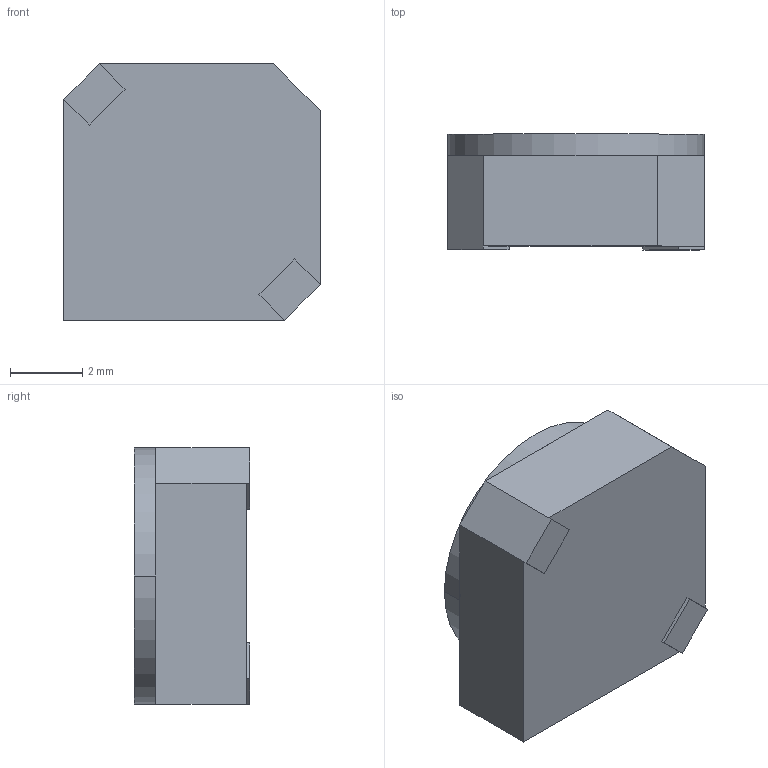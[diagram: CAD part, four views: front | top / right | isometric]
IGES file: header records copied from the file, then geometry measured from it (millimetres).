
Start section:  PTC IGES file: c6-k3l_prt.igs
Global section: file name: c6-k3l_prt.igs; native system: Pro/ENGINEER by Parametric Technology Corporation; preprocessor: 2000030; author: ECaille; organization: Unknown; date: 000803.091923; units: millimetre
Bounding box: 7.1 x 3.2 x 7.1 mm (x, y, z)
Surface area: 177.7 mm2 (no closed solid volume)
Topology: 0 solids, 0 shells, 23 faces, 185 edges, 263 vertices
Faces by surface type: bspline 21, revolution 2
